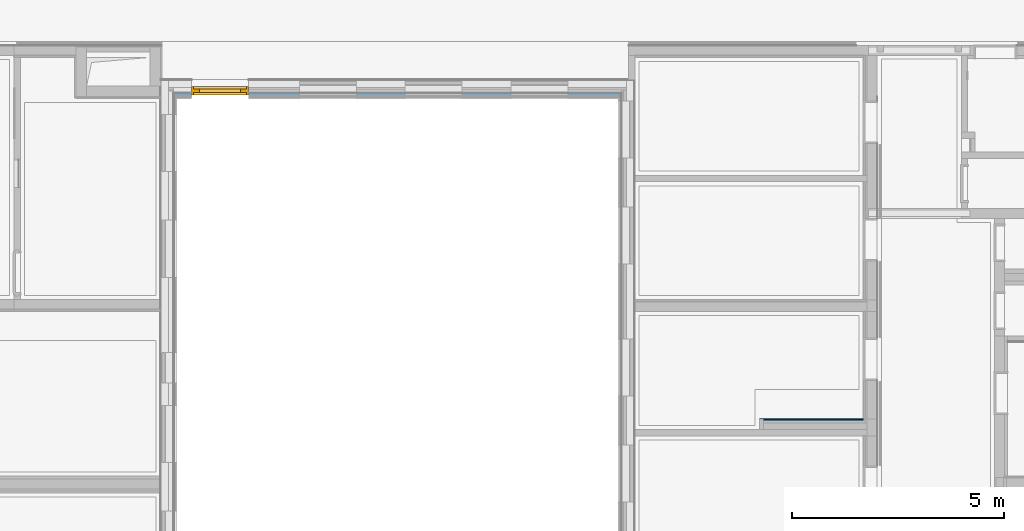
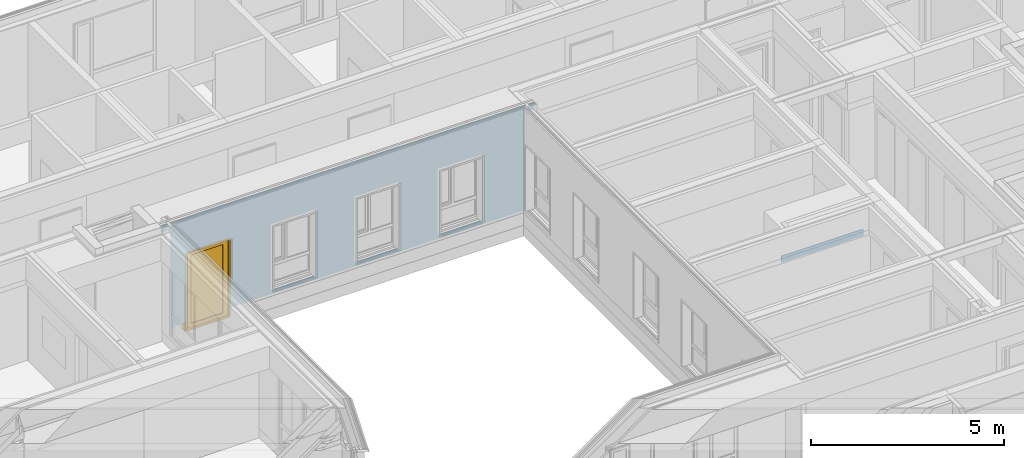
# One storey, part 135 of 207: 1 door, 1 wall, 4 openings, plus 1 element that does not belong to this part.
"""IFC4 building model written with IfcOpenShell, lengths in metres."""

from ifc_helpers import new_model, entity, si_unit, converted_unit, derived_unit, frame, frame_2d, origin, origin_with_axes, place, context, subcontext, project, spatial, polyline, rectangle, outline, extrude, clip, bounded_halfspace, closed_shell, open_shell, faceted_brep, surface_model, source, transform, mapped, material, type_object, element, fill, save


model = new_model("IFC4")

# Units and contexts
model_context = context("Model", 3, precision=1e-05, world=origin())
body_context = subcontext(model_context, "Body", "Model", "MODEL_VIEW")
ifc_project = project(units=[si_unit("LENGTHUNIT", "METRE"), si_unit("AREAUNIT", "SQUARE_METRE"), si_unit("VOLUMEUNIT", "CUBIC_METRE"), si_unit("MASSUNIT", "GRAM", prefix="KILO"), converted_unit("PLANEANGLEUNIT", "DEGREE", entity("IfcPlaneAngleMeasure", 0.0174532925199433), si_unit("PLANEANGLEUNIT", "RADIAN"), dimensions=[0, 0, 0, 0, 0, 0, 0]), derived_unit("THERMALTRANSMITTANCEUNIT", [(si_unit("POWERUNIT", "WATT"), 1), (si_unit("THERMODYNAMICTEMPERATUREUNIT", "KELVIN"), -1), (si_unit("LENGTHUNIT", "METRE"), -2)]), derived_unit("VOLUMETRICFLOWRATEUNIT", [(si_unit("LENGTHUNIT", "METRE"), 3), (converted_unit("TIMEUNIT", "hour", entity("IfcTimeMeasure", 3600.0), si_unit("TIMEUNIT", "SECOND"), dimensions=[0, 0, 1, 0, 0, 0, 0]), -1), (si_unit("LENGTHUNIT", "METRE"), -1)])], contexts=[model_context])

# Site, building, storey
site_placement = place(None, origin())
site = spatial("IfcSite", under=ifc_project, at=site_placement, Name="Psychiatrie Neubau Wunstorf", CompositionType="ELEMENT")
building_placement = place(site_placement, origin())
building = spatial("IfcBuilding", under=site, at=building_placement, Name="Neubau H2 Stationsgebäude", CompositionType="ELEMENT")
storey_placement = place(building_placement, frame((0.0, 0.0, -0.2)))
storey = spatial("IfcBuildingStorey", under=building, at=storey_placement, Name="H2 Ebene 0", CompositionType="ELEMENT", Elevation=-0.2)

# Wall, openings, door
ifc_material_1 = material(Name="WA-LB")
wall_1_placement = place(storey_placement, frame((90.361, 21.7, 0.5), z_axis=(0.0, 0.0, 1.0), x_axis=(-1.0, 0.0, 0.0)))
wall_1 = element("IfcWall", 1, at=wall_1_placement, inside=storey, material=ifc_material_1, context=body_context, shape_type="Clipping", body=[
    clip(clip(extrude(rectangle(XDim=10.598, YDim=0.036, at=frame_2d((5.299, 0.018), x_axis=(1.0, 0.0))), frame((0.312, 0.0, 0.0), z_axis=(0.0, 0.0, 1.0), x_axis=(1.0, 0.0, 0.0)), (0.0, 0.0, 1.0), 3.3), bounded_halfspace(frame((0.098, 0.018, 3.1), z_axis=(-1.16006977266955e-15, 6.31593542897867e-15, 1.0), x_axis=(1.0, 0.0, 2.3201395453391e-15)), True, origin_with_axes(), polyline([(0.0, 0.0), (0.196, 0.0), (0.196, 0.036), (0.0, 0.036), (0.0, 0.0)]))), bounded_halfspace(frame((11.1185, 0.018, 3.1), z_axis=(1.22904689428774e-15, 6.31593542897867e-15, 1.0), x_axis=(1.0, 0.0, -2.45809378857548e-15)), True, origin_with_axes(), polyline([(11.026, 0.0), (11.211, 0.0), (11.211, 0.036), (11.026, 0.036), (11.026, 0.0)]))),
    clip(clip(extrude(rectangle(XDim=0.036, YDim=0.196, at=frame_2d((-0.098, 0.018), x_axis=(0.0, 1.0))), frame((0.196, 0.0, 0.0), z_axis=(0.0, 0.0, 1.0), x_axis=(1.0, 0.0, 0.0)), (0.0, 0.0, 1.0), 3.3), bounded_halfspace(frame((0.098, 0.018, 3.1), z_axis=(-1.16006977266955e-15, 6.31593542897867e-15, 1.0), x_axis=(1.0, 0.0, 2.3201395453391e-15)), True, origin_with_axes(), polyline([(0.0, 0.0), (0.196, 0.0), (0.196, 0.036), (0.0, 0.036), (0.0, 0.0)]))), bounded_halfspace(frame((11.1185, 0.018, 3.1), z_axis=(1.22904689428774e-15, 6.31593542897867e-15, 1.0), x_axis=(1.0, 0.0, -2.45809378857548e-15)), True, origin_with_axes(), polyline([(11.026, 0.0), (11.211, 0.0), (11.211, 0.036), (11.026, 0.036), (11.026, 0.0)]))),
    clip(clip(extrude(rectangle(XDim=0.185, YDim=0.036, at=frame_2d((0.0925, 0.018), x_axis=(1.0, 0.0))), frame((11.026, 0.0, 0.0), z_axis=(0.0, 0.0, 1.0), x_axis=(1.0, 0.0, 0.0)), (0.0, 0.0, 1.0), 3.3), bounded_halfspace(frame((0.098, 0.018, 3.1), z_axis=(-1.16006977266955e-15, 6.31593542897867e-15, 1.0), x_axis=(1.0, 0.0, 2.3201395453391e-15)), True, origin_with_axes(), polyline([(0.0, 0.0), (0.196, 0.0), (0.196, 0.036), (0.0, 0.036), (0.0, 0.0)]))), bounded_halfspace(frame((11.1185, 0.018, 3.1), z_axis=(1.22904689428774e-15, 6.31593542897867e-15, 1.0), x_axis=(1.0, 0.0, -2.45809378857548e-15)), True, origin_with_axes(), polyline([(11.026, 0.0), (11.211, 0.0), (11.211, 0.036), (11.026, 0.036), (11.026, 0.0)]))),
])
opening_1_placement = place(wall_1_placement, frame((7.9313, 0.036, 0.1), z_axis=(0.0, -1.0, 0.0), x_axis=(0.0, 0.0, 1.0)))
element("IfcOpeningElement", 2, at=opening_1_placement, cuts=wall_1, Name="Fensteröffnung", ObjectType="Opening", context=body_context, shape_type="SweptSolid", body=[
    extrude(outline(polyline([(2.12, 1.35), (2.12, 0.0), (0.0, 0.0), (0.0, 1.35), (2.12, 1.35)])), origin_with_axes(), (0.0, 0.0, 1.0), 0.036),
])
opening_2_placement = place(wall_1_placement, frame((5.4313, 0.036, 0.1), z_axis=(0.0, -1.0, 0.0), x_axis=(0.0, 0.0, 1.0)))
element("IfcOpeningElement", 3, at=opening_2_placement, cuts=wall_1, Name="Fensteröffnung", ObjectType="Opening", context=body_context, shape_type="SweptSolid", body=[
    extrude(outline(polyline([(2.12, 1.35), (2.12, 0.0), (0.0, 0.0), (0.0, 1.35), (2.12, 1.35)])), origin_with_axes(), (0.0, 0.0, 1.0), 0.036),
])
opening_3_placement = place(wall_1_placement, frame((2.9313, 0.036, 0.1), z_axis=(0.0, -1.0, 0.0), x_axis=(0.0, 0.0, 1.0)))
element("IfcOpeningElement", 4, at=opening_3_placement, cuts=wall_1, Name="Fensteröffnung", ObjectType="Opening", context=body_context, shape_type="SweptSolid", body=[
    extrude(outline(polyline([(2.12, 1.35), (2.12, 0.0), (0.0, 0.0), (0.0, 1.35), (2.12, 1.35)])), origin_with_axes(), (0.0, 0.0, 1.0), 0.036),
])
opening_4_placement = place(wall_1_placement, frame((10.48, 0.036, -0.5), z_axis=(0.0, -1.0, 0.0), x_axis=(0.0, 0.0, 1.0)))
opening_4 = element("IfcOpeningElement", 5, at=opening_4_placement, cuts=wall_1, Name="Türöffnung", ObjectType="Opening", context=body_context, shape_type="SweptSolid", body=[
    extrude(outline(polyline([(2.72, 1.35), (2.72, 0.0), (0.0, 0.0), (0.0, 1.35), (2.72, 1.35)])), origin_with_axes(), (0.0, 0.0, 1.0), 0.036),
])
ifc_material_2 = material(Name="TA-1F-AG-D-O")
door_type = type_object("IfcDoorType", Name="SMT", OperationType="SINGLE_SWING_RIGHT", ParameterTakesPrecedence=False, PredefinedType="DOOR")
shared_shape = source(origin_with_axes(), body_context, "Body", "SurfaceModel", [
    surface_model("IfcShellBasedSurfaceModel", [(1.35, 0.0, 2.72), (1.35, 0.0, 0.2), (1.3, 0.0, 0.2), (1.3, 0.0, 2.72), (1.35, 0.2, 0.2), (1.35, 0.2, 2.72), (1.3, 0.2, 2.72), (1.3, 0.2, 0.2)], [closed_shell([[[0, 1, 2, 3]], [[4, 5, 6, 7]], [[1, 0, 5, 4]], [[2, 1, 4, 7]], [[3, 2, 7, 6]], [[0, 3, 6, 5]]], orient=[[False], [False], [False], [False], [False], [False]])]),
    surface_model("IfcShellBasedSurfaceModel", [(0.05, 0.0, 2.72), (0.05, 0.0, 0.2), (0.0, 0.0, 0.2), (0.0, 0.0, 2.72), (0.05, 0.2, 0.2), (0.05, 0.2, 2.72), (0.0, 0.2, 2.72), (0.0, 0.2, 0.2)], [closed_shell([[[0, 1, 2, 3]], [[4, 5, 6, 7]], [[1, 0, 5, 4]], [[2, 1, 4, 7]], [[3, 2, 7, 6]], [[0, 3, 6, 5]]], orient=[[False], [False], [False], [False], [False], [False]])]),
    surface_model("IfcShellBasedSurfaceModel", [(1.3, 0.0, 0.25), (1.3, 0.0, 0.2), (0.05, 0.0, 0.2), (0.05, 0.0, 0.25), (1.3, 0.2, 0.2), (1.3, 0.2, 0.25), (0.05, 0.2, 0.25), (0.05, 0.2, 0.2)], [closed_shell([[[0, 1, 2, 3]], [[4, 5, 6, 7]], [[1, 0, 5, 4]], [[2, 1, 4, 7]], [[3, 2, 7, 6]], [[0, 3, 6, 5]]], orient=[[False], [False], [False], [False], [False], [False]])]),
    surface_model("IfcShellBasedSurfaceModel", [(1.3, 0.0, 2.72), (1.3, 0.0, 2.67), (0.05, 0.0, 2.67), (0.05, 0.0, 2.72), (1.3, 0.2, 2.67), (1.3, 0.2, 2.72), (0.05, 0.2, 2.72), (0.05, 0.2, 2.67)], [closed_shell([[[0, 1, 2, 3]], [[4, 5, 6, 7]], [[1, 0, 5, 4]], [[2, 1, 4, 7]], [[3, 2, 7, 6]], [[0, 3, 6, 5]]], orient=[[False], [False], [False], [False], [False], [False]])]),
    surface_model("IfcShellBasedSurfaceModel", [(1.3, 0.06, 2.67), (1.3, 0.06, 0.25), (1.22, 0.06, 0.25), (1.22, 0.06, 2.67), (1.3, 0.14, 0.25), (1.3, 0.14, 2.67), (1.22, 0.14, 2.67), (1.22, 0.14, 0.25)], [closed_shell([[[0, 1, 2, 3]], [[4, 5, 6, 7]], [[1, 0, 5, 4]], [[2, 1, 4, 7]], [[3, 2, 7, 6]], [[0, 3, 6, 5]]], orient=[[False], [False], [False], [False], [False], [False]])]),
    surface_model("IfcShellBasedSurfaceModel", [(0.13, 0.06, 2.67), (0.13, 0.06, 0.25), (0.05, 0.06, 0.25), (0.05, 0.06, 2.67), (0.13, 0.14, 0.25), (0.13, 0.14, 2.67), (0.05, 0.14, 2.67), (0.05, 0.14, 0.25)], [closed_shell([[[0, 1, 2, 3]], [[4, 5, 6, 7]], [[1, 0, 5, 4]], [[2, 1, 4, 7]], [[3, 2, 7, 6]], [[0, 3, 6, 5]]], orient=[[False], [False], [False], [False], [False], [False]])]),
    surface_model("IfcShellBasedSurfaceModel", [(1.22, 0.06, 2.67), (1.22, 0.06, 2.59), (0.13, 0.06, 2.59), (0.13, 0.06, 2.67), (1.22, 0.14, 2.59), (1.22, 0.14, 2.67), (0.13, 0.14, 2.67), (0.13, 0.14, 2.59)], [closed_shell([[[0, 1, 2, 3]], [[4, 5, 6, 7]], [[1, 0, 5, 4]], [[2, 1, 4, 7]], [[3, 2, 7, 6]], [[0, 3, 6, 5]]], orient=[[False], [False], [False], [False], [False], [False]])]),
    surface_model("IfcShellBasedSurfaceModel", [(1.24, 0.061, 2.61), (1.24, 0.061, 0.23), (1.16, 0.061, 0.23), (1.16, 0.061, 2.61), (1.24, 0.141, 0.23), (1.24, 0.141, 2.61), (1.16, 0.141, 2.61), (1.16, 0.141, 0.23)], [closed_shell([[[0, 1, 2, 3]], [[4, 5, 6, 7]], [[1, 0, 5, 4]], [[2, 1, 4, 7]], [[3, 2, 7, 6]], [[0, 3, 6, 5]]], orient=[[False], [False], [False], [False], [False], [False]])]),
    surface_model("IfcShellBasedSurfaceModel", [(0.19, 0.061, 2.61), (0.19, 0.061, 0.23), (0.11, 0.061, 0.23), (0.11, 0.061, 2.61), (0.19, 0.141, 0.23), (0.19, 0.141, 2.61), (0.11, 0.141, 2.61), (0.11, 0.141, 0.23)], [closed_shell([[[0, 1, 2, 3]], [[4, 5, 6, 7]], [[1, 0, 5, 4]], [[2, 1, 4, 7]], [[3, 2, 7, 6]], [[0, 3, 6, 5]]], orient=[[False], [False], [False], [False], [False], [False]])]),
    surface_model("IfcShellBasedSurfaceModel", [(1.16, 0.061, 0.35), (1.16, 0.061, 0.23), (0.19, 0.061, 0.23), (0.19, 0.061, 0.35), (1.16, 0.141, 0.23), (1.16, 0.141, 0.35), (0.19, 0.141, 0.35), (0.19, 0.141, 0.23)], [closed_shell([[[0, 1, 2, 3]], [[4, 5, 6, 7]], [[1, 0, 5, 4]], [[2, 1, 4, 7]], [[3, 2, 7, 6]], [[0, 3, 6, 5]]], orient=[[False], [False], [False], [False], [False], [False]])]),
    surface_model("IfcShellBasedSurfaceModel", [(1.16, 0.061, 2.61), (1.16, 0.061, 2.53), (0.19, 0.061, 2.53), (0.19, 0.061, 2.61), (1.16, 0.141, 2.53), (1.16, 0.141, 2.61), (0.19, 0.141, 2.61), (0.19, 0.141, 2.53)], [closed_shell([[[0, 1, 2, 3]], [[4, 5, 6, 7]], [[1, 0, 5, 4]], [[2, 1, 4, 7]], [[3, 2, 7, 6]], [[0, 3, 6, 5]]], orient=[[False], [False], [False], [False], [False], [False]])]),
    surface_model("IfcShellBasedSurfaceModel", [(1.16, 0.101, 0.35), (0.19, 0.101, 0.35), (0.19, 0.101, 2.53), (1.16, 0.101, 2.53)], [open_shell([[[0, 1, 2, 3]]], orient=[[False]])]),
])
door_placement = place(opening_4_placement, frame((0.0, 1.35, 0.2), z_axis=(1.0, 0.0, 0.0), x_axis=(0.0, -1.0, 0.0)))
door = element("IfcDoor", 6, at=door_placement, inside=storey, type_object=door_type, material=ifc_material_2, Name="SMT", OverallHeight=2.72, OverallWidth=1.35, context=body_context, shape_type="MappedRepresentation", body=[
    mapped(shared_shape, transform((0.0, 0.0, 0.0), x_axis=(1.0, 0.0, 0.0), y_axis=(0.0, 1.0, 0.0), z_axis=(0.0, 0.0, 1.0), scale=1.0)),
])
fill(opening_4, door)

# Wall
wall_2_placement = place(storey_placement, frame((93.3110000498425, 13.9859999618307, 2.35)))
element("IfcWall", 7, at=wall_2_placement, inside=storey, Name="WV 1.1", context=body_context, shape_type="Brep", body=[
    faceted_brep([(2.45, 0.0, 0.0), (2.45, 0.025, 0.0), (0.0, 0.025, 0.0), (0.0, 0.0, 0.0), (2.45, 0.025, 0.2), (2.45, 0.0, 0.2), (0.0, 0.0, 0.2), (0.0, 0.025, 0.2)], [[[0, 1, 2, 3]], [[4, 5, 6, 7]], [[1, 0, 5, 4]], [[2, 1, 4, 7]], [[3, 2, 7, 6]], [[0, 3, 6, 5]]], orient=[[False], [False], [False], [False], [False], [False]]),
])

save(model, "model.ifc")
